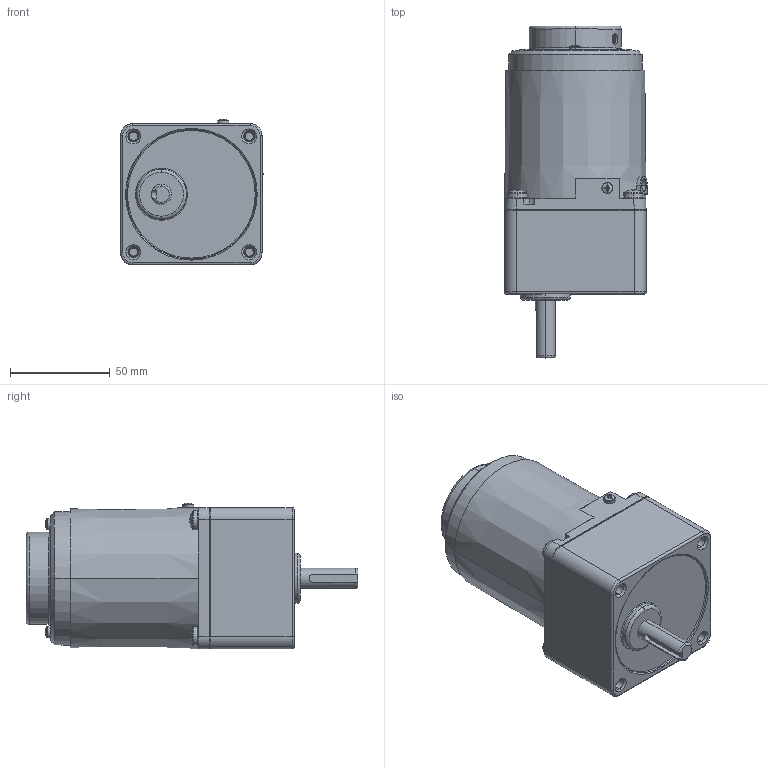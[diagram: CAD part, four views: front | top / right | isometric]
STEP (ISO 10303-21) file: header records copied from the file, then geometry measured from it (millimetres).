
FILE_DESCRIPTION (( 'STEP AP203' ), '1' );
FILE_NAME ('3IK15RGN-C(3GN3K-200K).STEP', '2023-07-27T07:31:18', ( 'Windows User' ), ( 'P R C' ), 'SwSTEP 2.0', 'SolidWorks 2019', '' );
FILE_SCHEMA (( 'CONFIG_CONTROL_DESIGN' ));
Length unit declared in the file: millimetre
Products named in the file (12): PRT0034^3IK15RGN-C(3GN3K-200K)(2)_3IK15RGN-C(3GN3K-200K); 3IK15RGN-C(3GN3K-200K); PRT0039^3IK15RGN-C(3GN3K-200K)(2)_3IK15RGN-C(3GN3K-200K); 3IK15RGN-C_7_AF0^3IK15RGN-C-3GN3K-200K_ASM_1_AF0_ASM_3IK15RGN-C(3GN3K-200K)(2)_3IK15RGN-C(3GN3K-200K); PRT0033^3IK15RGN-C(3GN3K-200K)(2)_3IK15RGN-C(3GN3K-200K); 3GN3k-200K; PRT0035^3IK15RGN-C(3GN3K-200K)(2)_3IK15RGN-C(3GN3K-200K); PRT0038^3IK15RGN-C(3GN3K-200K)(2)_3IK15RGN-C(3GN3K-200K); PRT0036^3IK15RGN-C(3GN3K-200K)(2)_3IK15RGN-C(3GN3K-200K); PRT0037^3IK15RGN-C(3GN3K-200K)(2)_3IK15RGN-C(3GN3K-200K); 3IK15RGN-C-3GN3K-200K_ASM_1_AF0_ASM^3IK15RGN-C(3GN3K-200K)(2)_3IK15RGN-C(3GN3K-200K); 3IK15RGN-C(3GN3K-200K)(2)^3IK15RGN-C(3GN3K-200K)
Assembly tree (12 placements, depth 4):
  3IK15RGN-C(3GN3K-200K)
    3IK15RGN-C(3GN3K-200K)(2)^3IK15RGN-C(3GN3K-200K)
      3IK15RGN-C-3GN3K-200K_ASM_1_AF0_ASM^3IK15RGN-C(3GN3K-200K)(2)_3IK15RGN-C(3GN3K-200K)
        3IK15RGN-C_7_AF0^3IK15RGN-C-3GN3K-200K_ASM_1_AF0_ASM_3IK15RGN-C(3GN3K-200K)(2)_3IK15RGN-C(3GN3K-200K)
      PRT0033^3IK15RGN-C(3GN3K-200K)(2)_3IK15RGN-C(3GN3K-200K)
      PRT0034^3IK15RGN-C(3GN3K-200K)(2)_3IK15RGN-C(3GN3K-200K)
      PRT0035^3IK15RGN-C(3GN3K-200K)(2)_3IK15RGN-C(3GN3K-200K)  x2
      PRT0036^3IK15RGN-C(3GN3K-200K)(2)_3IK15RGN-C(3GN3K-200K)
      PRT0037^3IK15RGN-C(3GN3K-200K)(2)_3IK15RGN-C(3GN3K-200K)
      PRT0038^3IK15RGN-C(3GN3K-200K)(2)_3IK15RGN-C(3GN3K-200K)
      PRT0039^3IK15RGN-C(3GN3K-200K)(2)_3IK15RGN-C(3GN3K-200K)
    3GN3k-200K
Bounding box: 71.45 x 166.25 x 73.06 mm (x, y, z)
Volume: 327924.8 mm3; surface area: 83274.3 mm2
Topology: 10 solids, 10 shells, 1320 faces, 3415 edges, 2113 vertices
Faces by surface type: cone 655, cylinder 371, plane 208, torus 66, sphere 20
Entity records: 37295 total; most frequent: CARTESIAN_POINT 6901, DIRECTION 6898, ORIENTED_EDGE 5842, EDGE_CURVE 2921, AXIS2_PLACEMENT_3D 2906, VERTEX_POINT 1828, CIRCLE 1743, EDGE_LOOP 1201
